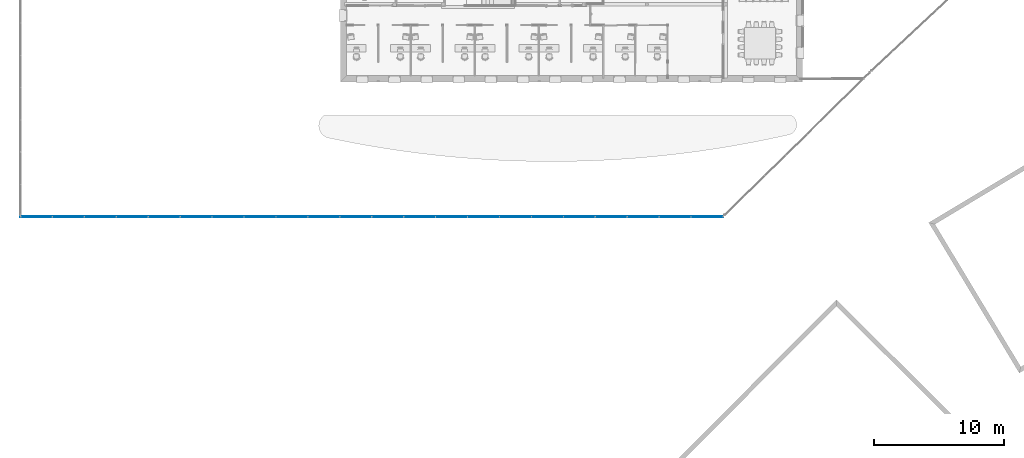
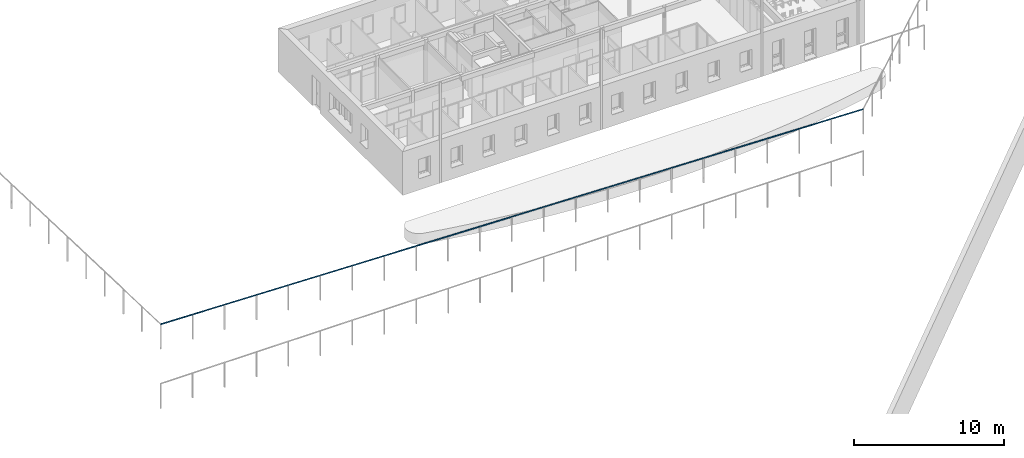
# One storey, part 48 of 91: 1 building element part, 1 element without a shape of its own.
"""IFC2X3 building model written with IfcOpenShell, lengths in metres."""

from ifc_helpers import new_model, entity, si_unit, converted_unit, derived_unit, money_unit, direction, frame, origin_with_axes, place, context, subcontext, project, spatial, faceted_brep, material, type_object, element, aggregate, save


model = new_model("IFC2X3")

# Units and contexts
model_context = context("Model", 3, precision=1e-05, world=origin_with_axes(), true_north=direction((0.0, 1.0)))
body_context = subcontext(model_context, "Body", "Model", "MODEL_VIEW")
ifc_project = project(units=[si_unit("LENGTHUNIT", "METRE"), si_unit("AREAUNIT", "SQUARE_METRE"), si_unit("VOLUMEUNIT", "CUBIC_METRE"), converted_unit("PLANEANGLEUNIT", "DEGREE", entity("IfcPlaneAngleMeasure", 0.0174532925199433), si_unit("PLANEANGLEUNIT", "RADIAN"), dimensions=[0, 0, 0, 0, 0, 0, 0]), money_unit("EUR"), converted_unit("TIMEUNIT", "Year", entity("IfcTimeMeasure", 31557600.0), si_unit("TIMEUNIT", "SECOND"), dimensions=[0, 0, 1, 0, 0, 0, 0]), si_unit("MASSUNIT", "GRAM", prefix="KILO"), si_unit("THERMODYNAMICTEMPERATUREUNIT", "DEGREE_CELSIUS"), si_unit("LUMINOUSINTENSITYUNIT", "LUMEN"), si_unit("ENERGYUNIT", "JOULE", prefix="MEGA"), derived_unit("THERMALCONDUCTANCEUNIT", [(si_unit("POWERUNIT", "WATT"), 1), (si_unit("LENGTHUNIT", "METRE"), -1), (si_unit("THERMODYNAMICTEMPERATUREUNIT", "KELVIN"), -1)]), derived_unit("SPECIFICHEATCAPACITYUNIT", [(si_unit("ENERGYUNIT", "JOULE"), 1), (si_unit("MASSUNIT", "GRAM", prefix="KILO"), -1), (si_unit("THERMODYNAMICTEMPERATUREUNIT", "KELVIN"), -1)]), derived_unit("MASSDENSITYUNIT", [(si_unit("MASSUNIT", "GRAM", prefix="KILO"), 1), (si_unit("VOLUMEUNIT", "CUBIC_METRE"), -1)])], contexts=[model_context])

# Site, building, storey
site_placement = place(None, origin_with_axes())
site = spatial("IfcSite", under=ifc_project, at=site_placement, Name="Site", CompositionType="ELEMENT")
building_placement = place(site_placement, origin_with_axes())
building = spatial("IfcBuilding", under=site, at=building_placement, Name="Bâtiment", CompositionType="ELEMENT")
storey_placement = place(building_placement, origin_with_axes())
storey = spatial("IfcBuildingStorey", under=building, at=storey_placement, Name="RDC", CompositionType="ELEMENT", Elevation=0.0)

# Proxy, building element part
building_element_proxy_type = type_object("IfcBuildingElementProxyType", Name="Type de garde-corps", PredefinedType="NOTDEFINED")
proxy_placement = place(storey_placement, frame((79.63337255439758, 3.614023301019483, -2.37161404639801), z_axis=(0.0, 0.0, 1.0), x_axis=(1.0, 0.0, 0.0)))
proxy = element("IfcBuildingElementProxy", 1, at=proxy_placement, inside=storey, type_object=building_element_proxy_type, Name="RAMPE-004")
ifc_material = material(Name="Acier Galva")
building_element_part_placement = place(proxy_placement, origin_with_axes())
building_element_part = element("IfcBuildingElementPart", 2, at=building_element_part_placement, material=ifc_material, Name="Acier Galva", context=body_context, shape_type="Brep", body=[
    faceted_brep([(-79.71852103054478, -41.48825011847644, 6.851556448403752), (-79.71918121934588, -41.48758970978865, 6.801560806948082), (-25.49884932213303, -41.48806224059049, 5.370038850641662), (-79.66852182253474, -41.43826755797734, 6.851556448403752), (-79.66918201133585, -41.43760714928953, 6.801560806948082), (-25.51930230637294, -41.4380651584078, 5.370038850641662), (-25.4981889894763, -41.4877921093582, 5.420038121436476), (-25.51864197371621, -41.4377950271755, 5.420038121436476)], [[[0, 1, 2]], [[0, 3, 4, 1]], [[1, 5, 2]], [[0, 2, 6]], [[3, 0, 6]], [[4, 3, 7]], [[1, 4, 5]], [[6, 2, 5, 7]], [[3, 6, 7]], [[4, 7, 5]]]),
])
aggregate(proxy, [building_element_part])

save(model, "model.ifc")
